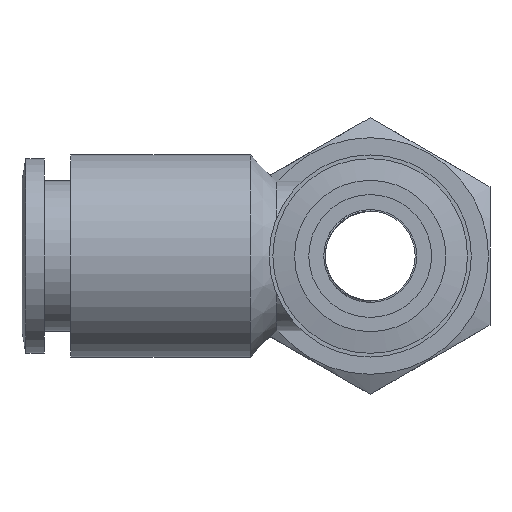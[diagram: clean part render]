
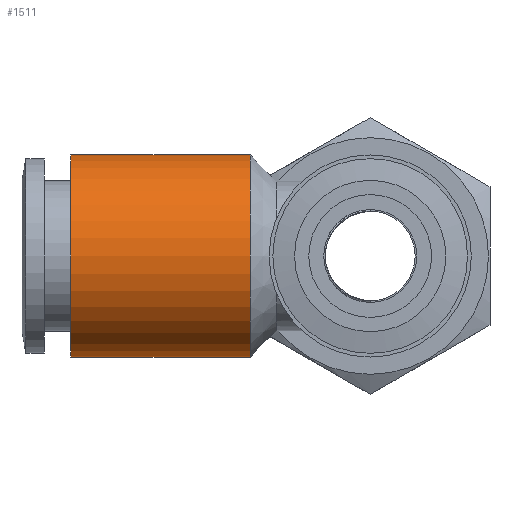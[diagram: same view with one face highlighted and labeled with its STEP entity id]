
A CAD part, left-side view. The second image highlights one B-rep face of the part: STEP entity #1511.
In plain terms, the highlighted cylindrical face has radius 6.75 mm (diameter 13.5 mm), a full revolution.
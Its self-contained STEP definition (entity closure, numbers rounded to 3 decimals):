
#1477=CARTESIAN_POINT('',(-6.75,8.,0.0));
#1478=VERTEX_POINT('',#1477);
#1479=CARTESIAN_POINT('',(0.0,8.,0.0));
#1480=DIRECTION('',(0.0,1.0,0.0));
#1481=DIRECTION('',(-1.0,0.0,0.0));
#1482=AXIS2_PLACEMENT_3D('',#1479,#1480,#1481);
#1483=CIRCLE('',#1482,6.75);
#1484=EDGE_CURVE('',#1478,#1478,#1483,.T.);
#1492=CARTESIAN_POINT('',(0.0,14.0,0.0));
#1493=DIRECTION('',(0.0,1.0,0.0));
#1494=DIRECTION('',(-1.0,0.0,0.0));
#1495=AXIS2_PLACEMENT_3D('',#1492,#1493,#1494);
#1496=CYLINDRICAL_SURFACE('',#1495,6.75);
#1497=CARTESIAN_POINT('',(-6.75,20.0,0.0));
#1498=VERTEX_POINT('',#1497);
#1499=CARTESIAN_POINT('',(0.0,20.0,0.0));
#1500=DIRECTION('',(0.0,1.0,0.0));
#1501=DIRECTION('',(-1.0,0.0,0.0));
#1502=AXIS2_PLACEMENT_3D('',#1499,#1500,#1501);
#1503=CIRCLE('',#1502,6.75);
#1504=EDGE_CURVE('',#1498,#1498,#1503,.T.);
#1505=ORIENTED_EDGE('',*,*,#1504,.F.);
#1506=EDGE_LOOP('',(#1505));
#1507=FACE_OUTER_BOUND('',#1506,.T.);
#1508=ORIENTED_EDGE('',*,*,#1484,.T.);
#1509=EDGE_LOOP('',(#1508));
#1510=FACE_BOUND('',#1509,.T.);
#1511=ADVANCED_FACE('',(#1507,#1510),#1496,.T.);
